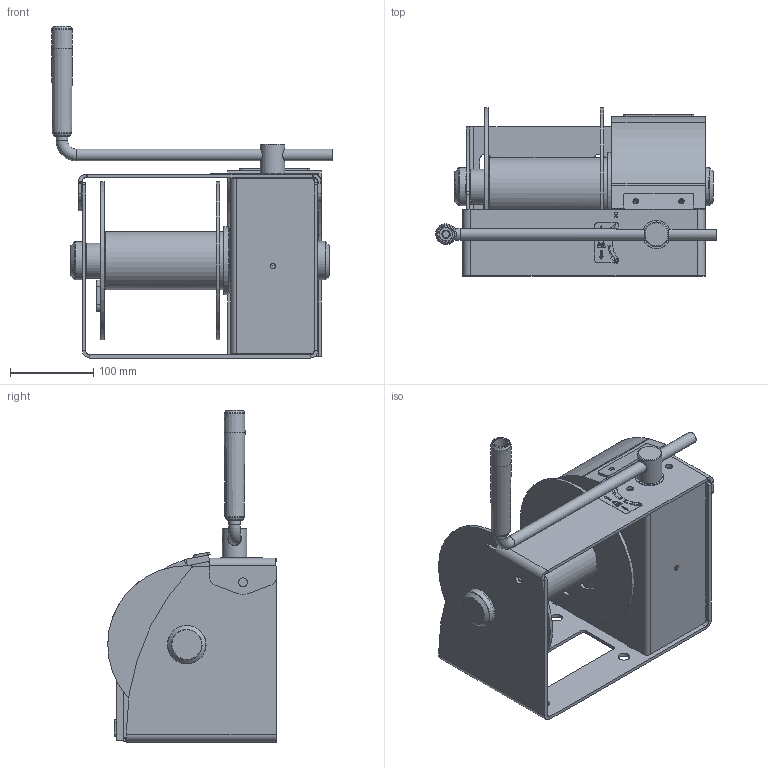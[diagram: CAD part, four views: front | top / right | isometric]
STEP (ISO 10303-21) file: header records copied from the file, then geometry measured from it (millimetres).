
FILE_DESCRIPTION (( 'STEP AP203' ), '1' );
FILE_NAME ('SL9330 WW500 M.STEP', '2019-01-30T11:22:08', ( '.' ), ( '.' ), 'SwSTEP 2.0', 'SolidWorks 2018', '' );
FILE_SCHEMA (( 'CONFIG_CONTROL_DESIGN' ));
Length unit declared in the file: millimetre
Products named in the file (35): SL3070 slinger_RVS slinger; SL1117_wormas_500_RVS worm; SL8757 Sam trommel; SL0513_lagerring NL-AWX25_Met borst 316; SL0339 grip; SL0506_remschijf_26; SL0801_folie draairichting; SL8753 Sam huis; SL3071 sam slinger_RVS Slinger; SL1202_palwiel_250; SL8759 V-ring; SL8741_brug; SL8755_trommelas_RVS trommelas; SL9330 WW500 M; SL1103_lagerschijf_AS2542; SL1713 klemplaat; SL8754 Tussenkap; SL8756 Trommelbuis_RVS trommelbuis; SL1167 Beschermkap; SL1201_kabelklem_Kabelklem RVS; SL1320 Flenslager GFL-30; SL0818_wormwiel tbv ST_500; SL1136_starlock kap kst; Sl8500 GFM-2528-16; SL1101_Glijlager2515_2515; SL0515_lagerring GL2520_RVS 316; SL1136_starlock veer; SL8758 tussenplaat; SL1125_naaldlager_AWX25; SL8761 Trommelflens 316 L; SL8752 achterplaat; SL8763 Bevestigingsstrip; SL3000 pal; SL8762 Trommelflens R; SL1102_palas_Met borst 316
Assembly tree (39 placements, depth 3):
  SL9330 WW500 M
    SL8753 Sam huis
      SL8752 achterplaat
      SL1102_palas_Met borst 316
      SL0513_lagerring NL-AWX25_Met borst 316
    SL8741_brug
    SL8754 Tussenkap
    SL1320 Flenslager GFL-30
    SL1101_Glijlager2515_2515  x2
    SL1125_naaldlager_AWX25
    SL3000 pal
    SL1117_wormas_500_RVS worm
    SL0506_remschijf_26
    SL1202_palwiel_250
    SL1103_lagerschijf_AS2542
    SL1167 Beschermkap
    SL1136_starlock kap kst  x2
    SL1136_starlock veer  x2
    SL8755_trommelas_RVS trommelas
    SL8757 Sam trommel
      SL8756 Trommelbuis_RVS trommelbuis
      SL0818_wormwiel tbv ST_500
      SL0515_lagerring GL2520_RVS 316
      SL8761 Trommelflens 316 L
      SL8762 Trommelflens R
    SL0801_folie draairichting
    SL8759 V-ring
    SL1713 klemplaat  x2
    SL1201_kabelklem_Kabelklem RVS
    Sl8500 GFM-2528-16
    SL8758 tussenplaat
    SL8763 Bevestigingsstrip  x2
    SL3071 sam slinger_RVS Slinger
      SL3070 slinger_RVS slinger
      SL0339 grip
Bounding box: 337.49 x 202.5 x 399.1 mm (x, y, z)
Volume: 2073044.4 mm3; surface area: 897341.1 mm2
Topology: 36 solids, 36 shells, 969 faces, 2462 edges, 1598 vertices
Faces by surface type: plane 429, cylinder 317, cone 143, torus 57, bspline 23
Full cylindrical faces by diameter (mm): 2 x1, 4.5 x1, 5 x7, 6 x3, 6.5 x15, 6.8 x1, 8.2 x1, 8.5 x7, 8.7 x1, 10 x1, 10.2 x4, 10.5 x7, 13.9 x1, 14 x5, 14.2 x1, 14.5 x1, 15 x1, 15.2 x1, 20 x1, 23.8 x1, 24.95 x1, 25 x4, 25.1 x1, 25.2 x1, 25.3 x1, 25.5 x1, 26 x2, 27.2 x2, 28 x6, 29.5 x1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
Entity records: 34454 total; most frequent: CARTESIAN_POINT 10137, DIRECTION 4116, ORIENTED_EDGE 4084, EDGE_CURVE 2042, AXIS2_PLACEMENT_3D 1602, VERTEX_POINT 1418, EDGE_LOOP 1222, FACE_OUTER_BOUND 1007
